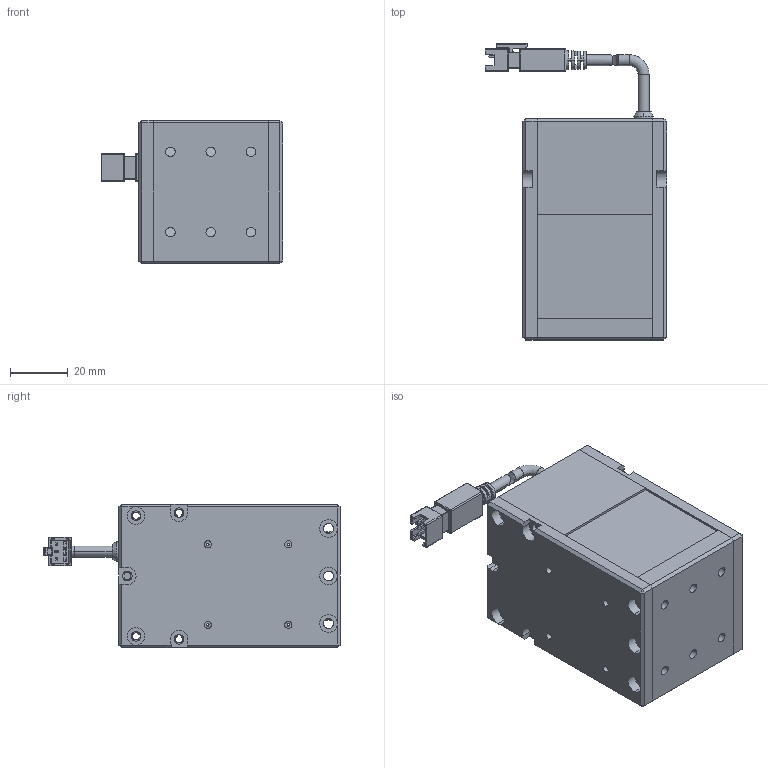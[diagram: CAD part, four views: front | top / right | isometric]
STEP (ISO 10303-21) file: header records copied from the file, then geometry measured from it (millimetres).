
FILE_DESCRIPTION (( 'STEP AP203' ), '1' );
FILE_NAME ('PPX-CO50N-W.STEP', '2025-04-24T07:40:52', ( '' ), ( '' ), 'SwSTEP 2.0', 'SolidWorks 2021', '' );
FILE_SCHEMA (( 'CONFIG_CONTROL_DESIGN' ));
Length unit declared in the file: millimetre
Products named in the file (1): PPX-CO50N-W
Bounding box: 63 x 103 x 50 mm (x, y, z)
Surface area: 38552.2 mm2 (no closed solid volume)
Topology: 0 solids, 13 shells, 430 faces, 1488 edges, 1051 vertices
Faces by surface type: plane 271, cylinder 134, torus 11, cone 8, sphere 4, bspline 2
Entity records: 16533 total; most frequent: CARTESIAN_POINT 3477, DIRECTION 2726, ORIENTED_EDGE 2499, EDGE_CURVE 1484, VERTEX_POINT 1051, VECTOR 1002, LINE 1002, AXIS2_PLACEMENT_3D 862
